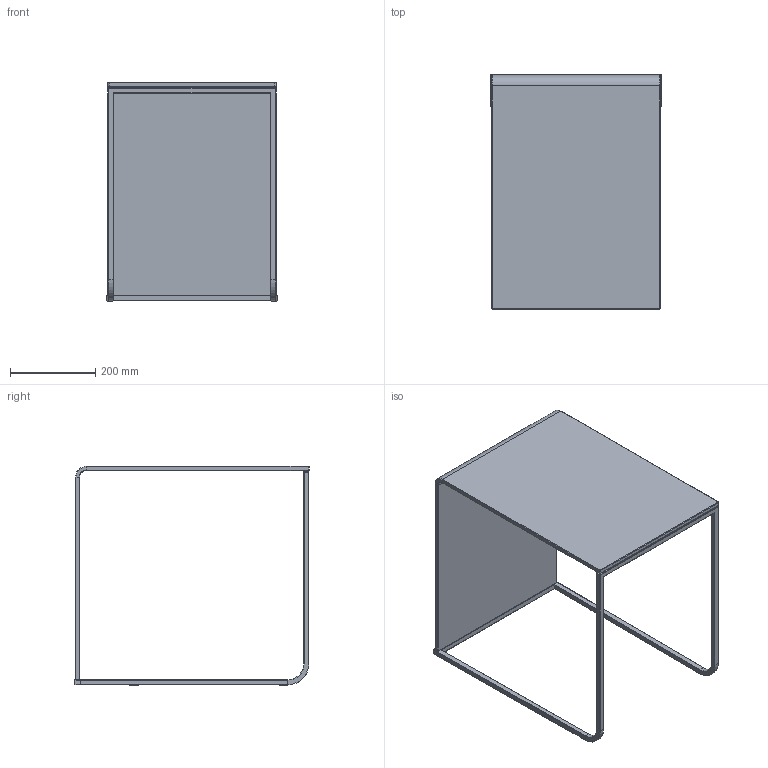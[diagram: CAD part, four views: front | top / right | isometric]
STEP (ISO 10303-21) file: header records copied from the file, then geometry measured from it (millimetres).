
FILE_DESCRIPTION((''),'2;1');
FILE_NAME('C:\AutodeskVault\AreaLavoro\Progetti\SoVeT Italia\2. Tavolini_Coffee tables\Nido\Web file\Nido Web\P4572.stp','2012-06-13T16:48:27',('Gianluca'),('So.Ve.T. s.r.l.'),'Autodesk Inventor 2013','Autodesk Inventor 2013','IL PROGETTO E'' DI ESCLUSIVA PROPRIETA'' DELLA SO.VE.T. srl. E'' VIETATA OGNI RIPRODUZIONE TOTALE O PARZIALE E QUALSIASI UTILIZZO NON AUTORIZZATO.');
FILE_SCHEMA(('AUTOMOTIVE_DESIGN { 1 0 10303 214 1 1 1 1 }'));
Length unit declared in the file: millimetre
Products named in the file (1): P4572 TR Contorno semplificato
Bounding box: 399.96 x 550.94 x 514.5 mm (x, y, z)
Volume: 4482723.4 mm3; surface area: 965449.2 mm2
Topology: 1 solids, 1 shells, 146 faces, 337 edges, 182 vertices
Faces by surface type: plane 65, cylinder 45, cone 12, torus 12, sphere 8, bspline 4
Full cylindrical faces by diameter (mm): 12 x2
Entity records: 4241 total; most frequent: CARTESIAN_POINT 806, DIRECTION 713, ORIENTED_EDGE 638, EDGE_CURVE 319, AXIS2_PLACEMENT_3D 257, VECTOR 199, LINE 199, VERTEX_POINT 180
